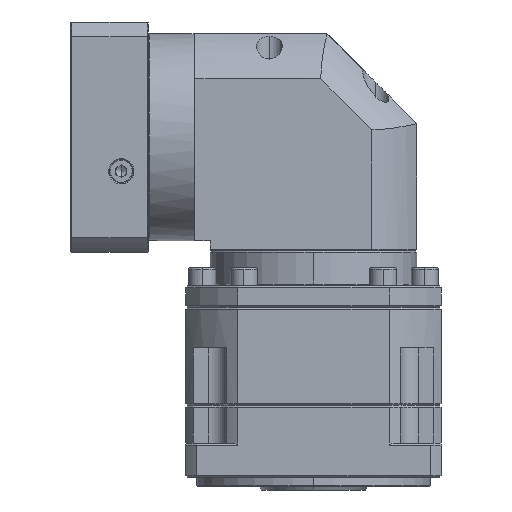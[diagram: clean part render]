
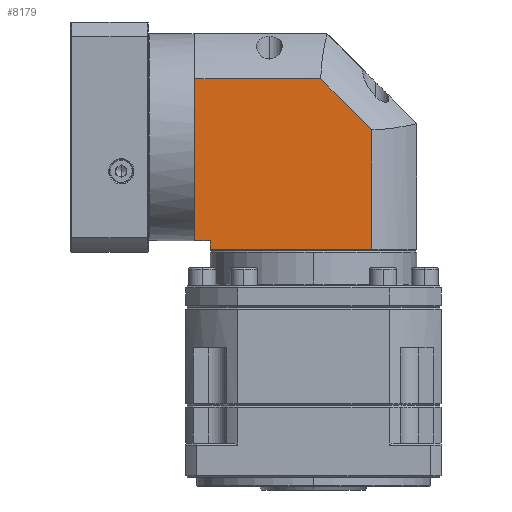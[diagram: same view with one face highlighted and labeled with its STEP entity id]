
A CAD part, left-side view. The second image highlights one B-rep face of the part: STEP entity #8179.
In plain terms, the highlighted planar face has unit normal (-1, 0, 0).
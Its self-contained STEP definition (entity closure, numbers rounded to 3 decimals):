
#2264 = CARTESIAN_POINT ( 'NONE',  ( -32.073, 101.173, 115.857 ) ) ;
#2399 = VECTOR ( 'NONE', #21809, 1000. ) ;
#5843 = CARTESIAN_POINT ( 'NONE',  ( -32.073, 101.173, 115.857 ) ) ;
#6821 = VECTOR ( 'NONE', #93650, 1000. ) ;
#7197 = VERTEX_POINT ( 'NONE', #59305 ) ;
#8179 = ADVANCED_FACE ( 'NONE', ( #87334 ), #133506, .F. ) ;
#8719 = LINE ( 'NONE', #105257, #2399 ) ;
#11194 = VECTOR ( 'NONE', #115050, 1000. ) ;
#11619 = VECTOR ( 'NONE', #88153, 1000. ) ;
#12523 = VERTEX_POINT ( 'NONE', #65659 ) ;
#13241 = VERTEX_POINT ( 'NONE', #48056 ) ;
#13244 = VERTEX_POINT ( 'NONE', #158385 ) ;
#13501 = EDGE_CURVE ( 'NONE', #38538, #13241, #60304, .T. ) ;
#17272 = ORIENTED_EDGE ( 'NONE', *, *, #151237, .F. ) ;
#21809 = DIRECTION ( 'NONE',  ( 0., 0., -1. ) ) ;
#22931 = ORIENTED_EDGE ( 'NONE', *, *, #74411, .T. ) ;
#24169 = VERTEX_POINT ( 'NONE', #53874 ) ;
#37341 = CARTESIAN_POINT ( 'NONE',  ( -32.073, -13.827, 104.357 ) ) ;
#37921 = DIRECTION ( 'NONE',  ( 0., -1., 0. ) ) ;
#38538 = VERTEX_POINT ( 'NONE', #2264 ) ;
#41970 = ORIENTED_EDGE ( 'NONE', *, *, #63800, .F. ) ;
#46386 = ORIENTED_EDGE ( 'NONE', *, *, #55072, .F. ) ;
#48056 = CARTESIAN_POINT ( 'NONE',  ( -32.073, 101.173, 110.857 ) ) ;
#53874 = CARTESIAN_POINT ( 'NONE',  ( -32.073, 11.273, 177.418 ) ) ;
#55072 = EDGE_CURVE ( 'NONE', #154146, #13241, #83890, .T. ) ;
#59305 = CARTESIAN_POINT ( 'NONE',  ( -32.073, 109.573, 115.857 ) ) ;
#60304 = LINE ( 'NONE', #63973, #102912 ) ;
#63800 = EDGE_CURVE ( 'NONE', #7197, #13244, #126208, .T. ) ;
#63973 = CARTESIAN_POINT ( 'NONE',  ( -32.073, 101.173, 230.857 ) ) ;
#65659 = CARTESIAN_POINT ( 'NONE',  ( -32.073, 39.611, 205.757 ) ) ;
#74411 = EDGE_CURVE ( 'NONE', #7197, #38538, #152109, .T. ) ;
#82696 = EDGE_CURVE ( 'NONE', #13244, #12523, #173794, .T. ) ;
#82901 = EDGE_LOOP ( 'NONE', ( #146818, #17272, #147684, #41970, #22931, #175127, #46386 ) ) ;
#83337 = CARTESIAN_POINT ( 'NONE',  ( -32.073, 109.573, 104.357 ) ) ;
#83890 = LINE ( 'NONE', #172942, #6821 ) ;
#87334 = FACE_OUTER_BOUND ( 'NONE', #82901, .T. ) ;
#88153 = DIRECTION ( 'NONE',  ( 0., -1., 0. ) ) ;
#93650 = DIRECTION ( 'NONE',  ( 0., 1., 0. ) ) ;
#102912 = VECTOR ( 'NONE', #132667, 1000. ) ;
#104208 = DIRECTION ( 'NONE',  ( 1., 0., 0. ) ) ;
#105257 = CARTESIAN_POINT ( 'NONE',  ( -32.073, 11.273, 104.357 ) ) ;
#112824 = LINE ( 'NONE', #142865, #157657 ) ;
#115050 = DIRECTION ( 'NONE',  ( 0., -1., 0. ) ) ;
#115430 = DIRECTION ( 'NONE',  ( 0., -0.707, -0.707 ) ) ;
#126208 = LINE ( 'NONE', #83337, #136815 ) ;
#126913 = AXIS2_PLACEMENT_3D ( 'NONE', #37341, #104208, #37921 ) ;
#132667 = DIRECTION ( 'NONE',  ( 0., 0., -1. ) ) ;
#133506 = PLANE ( 'NONE',  #126913 ) ;
#134318 = CARTESIAN_POINT ( 'NONE',  ( -32.073, 11.273, 110.857 ) ) ;
#136815 = VECTOR ( 'NONE', #151349, 1000. ) ;
#142428 = CARTESIAN_POINT ( 'NONE',  ( -32.073, -13.827, 205.757 ) ) ;
#142865 = CARTESIAN_POINT ( 'NONE',  ( -32.073, 39.611, 205.757 ) ) ;
#146818 = ORIENTED_EDGE ( 'NONE', *, *, #150568, .F. ) ;
#147684 = ORIENTED_EDGE ( 'NONE', *, *, #82696, .F. ) ;
#150568 = EDGE_CURVE ( 'NONE', #24169, #154146, #8719, .T. ) ;
#151237 = EDGE_CURVE ( 'NONE', #12523, #24169, #112824, .T. ) ;
#151349 = DIRECTION ( 'NONE',  ( 0., 0., 1. ) ) ;
#152109 = LINE ( 'NONE', #5843, #11194 ) ;
#154146 = VERTEX_POINT ( 'NONE', #134318 ) ;
#157657 = VECTOR ( 'NONE', #115430, 1000. ) ;
#158385 = CARTESIAN_POINT ( 'NONE',  ( -32.073, 109.573, 205.757 ) ) ;
#172942 = CARTESIAN_POINT ( 'NONE',  ( -32.073, -13.827, 110.857 ) ) ;
#173794 = LINE ( 'NONE', #142428, #11619 ) ;
#175127 = ORIENTED_EDGE ( 'NONE', *, *, #13501, .T. ) ;
